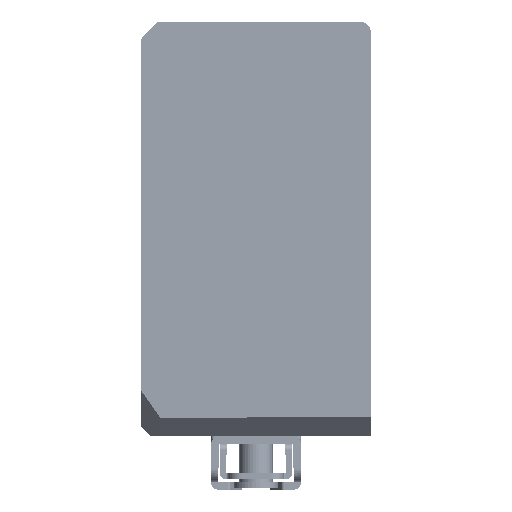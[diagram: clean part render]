
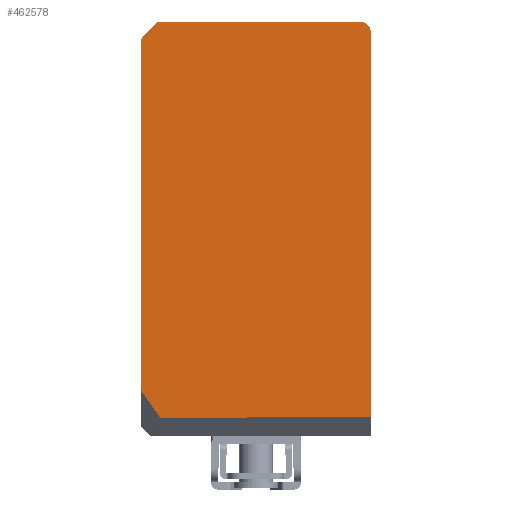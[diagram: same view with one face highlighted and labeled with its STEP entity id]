
A CAD part, front view. The second image highlights one B-rep face of the part: STEP entity #462578.
In plain terms, the highlighted planar face has unit normal (-0.005, -1, 0).
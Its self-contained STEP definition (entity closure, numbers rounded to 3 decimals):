
#455861=DIRECTION('',(1.,-0.005,0.005));
#455862=VECTOR('',#455861,33.001);
#455863=CARTESIAN_POINT('',(-6.,-40.327,
-59.673));
#455864=LINE('',#455863,#455862);
#455869=DIRECTION('',(-0.579,0.003,0.815));
#455870=VECTOR('',#455869,5.183);
#455871=CARTESIAN_POINT('',(-6.,-40.327,
-59.673));
#455872=LINE('',#455871,#455870);
#455931=DIRECTION('',(0.,0.,1.));
#455932=VECTOR('',#455931,55.032);
#455933=CARTESIAN_POINT('',(-9.,-40.312,-55.446));
#455934=LINE('',#455933,#455932);
#456123=DIRECTION('',(-0.707,0.004,-0.707));
#456124=VECTOR('',#456123,2.707);
#456125=CARTESIAN_POINT('',(-6.793,-40.323,
2.207));
#456126=LINE('',#456125,#456124);
#456127=CARTESIAN_POINT('',(-6.086,-40.327,2.5));
#456128=CARTESIAN_POINT('',(-6.362,-40.325,2.5));
#456129=CARTESIAN_POINT('',(-6.598,-40.324,
2.402));
#456130=CARTESIAN_POINT('',(-6.793,-40.323,
2.207));
#456132=CARTESIAN_POINT('',(27.,-40.5,0.9));
#456133=CARTESIAN_POINT('',(27.,-40.5,1.167));
#456134=CARTESIAN_POINT('',(26.884,-40.499,
1.584));
#456135=CARTESIAN_POINT('',(26.555,-40.498,
2.055));
#456136=CARTESIAN_POINT('',(26.084,-40.495,
2.384));
#456137=CARTESIAN_POINT('',(25.667,-40.493,2.5));
#456138=CARTESIAN_POINT('',(25.4,-40.492,2.5));
#456140=DIRECTION('',(0.,0.,1.));
#456141=VECTOR('',#456140,60.4);
#456142=CARTESIAN_POINT('',(27.,-40.5,-59.5));
#456143=LINE('',#456142,#456141);
#456144=CARTESIAN_POINT('',(-8.707,-40.313,
0.293));
#456145=CARTESIAN_POINT('',(-8.902,-40.312,
0.098));
#456146=CARTESIAN_POINT('',(-9.,-40.312,
-0.138));
#456147=CARTESIAN_POINT('',(-9.,-40.312,-0.414));
#456157=DIRECTION('',(1.,-0.005,0.));
#456158=VECTOR('',#456157,31.486);
#456159=CARTESIAN_POINT('',(-6.086,-40.327,2.5));
#456160=LINE('',#456159,#456158);
#459215=CARTESIAN_POINT('',(27.,-40.5,-59.5));
#459216=VERTEX_POINT('',#459215);
#459217=CARTESIAN_POINT('',(-6.,-40.327,
-59.673));
#459218=VERTEX_POINT('',#459217);
#459221=CARTESIAN_POINT('',(-9.,-40.312,-55.446));
#459222=VERTEX_POINT('',#459221);
#459239=CARTESIAN_POINT('',(27.,-40.5,0.9));
#459240=VERTEX_POINT('',#459239);
#459255=CARTESIAN_POINT('',(-6.793,-40.323,
2.207));
#459256=CARTESIAN_POINT('',(-8.707,-40.313,
0.293));
#459257=VERTEX_POINT('',#459255);
#459258=VERTEX_POINT('',#459256);
#459259=VERTEX_POINT('',#456127);
#459260=CARTESIAN_POINT('',(25.4,-40.492,2.5));
#459261=VERTEX_POINT('',#459260);
#459262=CARTESIAN_POINT('',(-9.,-40.312,-0.414));
#459263=VERTEX_POINT('',#459262);
#462557=CARTESIAN_POINT('',(9.,-40.406,-28.586));
#462558=DIRECTION('',(0.005,1.,0.));
#462559=DIRECTION('',(0.,0.,-1.));
#462560=AXIS2_PLACEMENT_3D('',#462557,#462558,#462559);
#462561=PLANE('',#462560);
#462563=ORIENTED_EDGE('',*,*,#462562,.F.);
#462565=ORIENTED_EDGE('',*,*,#462564,.F.);
#462567=ORIENTED_EDGE('',*,*,#462566,.T.);
#462569=ORIENTED_EDGE('',*,*,#462568,.F.);
#462570=ORIENTED_EDGE('',*,*,#462529,.F.);
#462571=ORIENTED_EDGE('',*,*,#462145,.F.);
#462572=ORIENTED_EDGE('',*,*,#462168,.T.);
#462573=ORIENTED_EDGE('',*,*,#462258,.T.);
#462575=ORIENTED_EDGE('',*,*,#462574,.F.);
#462576=EDGE_LOOP('',(#462563,#462565,#462567,#462569,#462570,#462571,#462572,
#462573,#462575));
#462577=FACE_OUTER_BOUND('',#462576,.F.);
#456131=B_SPLINE_CURVE_WITH_KNOTS('',3,(#456127,#456128,#456129,#456130),
.UNSPECIFIED.,.F.,.F.,(4,4),(0.,1.),.UNSPECIFIED.);
#456139=B_SPLINE_CURVE_WITH_KNOTS('',3,(#456132,#456133,#456134,#456135,#456136,
#456137,#456138),.UNSPECIFIED.,.F.,.F.,(4,1,1,1,4),(0.,0.25,0.5,0.75,
1.),.UNSPECIFIED.);
#456148=B_SPLINE_CURVE_WITH_KNOTS('',3,(#456144,#456145,#456146,#456147),
.UNSPECIFIED.,.F.,.F.,(4,4),(0.,1.),.UNSPECIFIED.);
#462145=EDGE_CURVE('',#459218,#459216,#455864,.T.);
#462168=EDGE_CURVE('',#459218,#459222,#455872,.T.);
#462258=EDGE_CURVE('',#459222,#459263,#455934,.T.);
#462529=EDGE_CURVE('',#459216,#459240,#456143,.T.);
#462562=EDGE_CURVE('',#459257,#459258,#456126,.T.);
#462564=EDGE_CURVE('',#459259,#459257,#456131,.T.);
#462566=EDGE_CURVE('',#459259,#459261,#456160,.T.);
#462568=EDGE_CURVE('',#459240,#459261,#456139,.T.);
#462574=EDGE_CURVE('',#459258,#459263,#456148,.T.);
#462578=ADVANCED_FACE('',(#462577),#462561,.F.);
